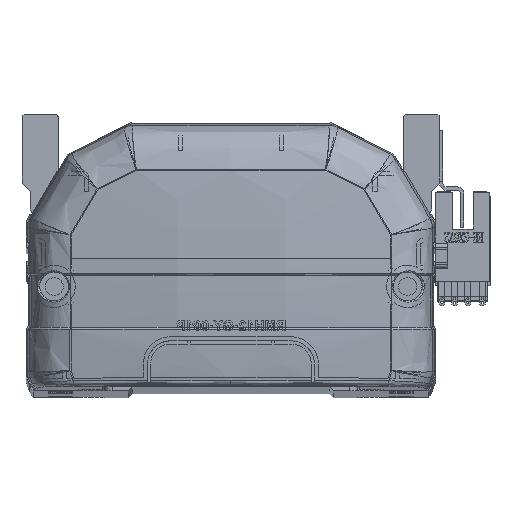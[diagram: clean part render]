
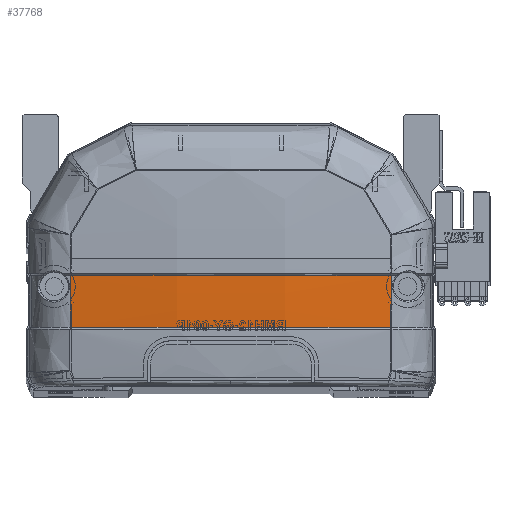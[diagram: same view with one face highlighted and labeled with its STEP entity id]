
A CAD part, top view. The second image highlights one B-rep face of the part: STEP entity #37768.
In plain terms, the highlighted free-form (B-spline) face has degree [3, 3] with [4, 4] control points.
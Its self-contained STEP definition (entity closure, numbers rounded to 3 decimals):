
#144 = CARTESIAN_POINT ( 'NONE',  ( -13.598, 28.769, -10.535 ) ) ;
#596 = CARTESIAN_POINT ( 'NONE',  ( -39.973, 20.118, -6.142 ) ) ;
#970 = CARTESIAN_POINT ( 'NONE',  ( 13.375, 28.707, -9.468 ) ) ;
#1488 = CARTESIAN_POINT ( 'NONE',  ( -26.721, 15.83, -7.624 ) ) ;
#3504 = CARTESIAN_POINT ( 'NONE',  ( -40.461, 24.47, -6.231 ) ) ;
#3986 = CARTESIAN_POINT ( 'NONE',  ( 13.598, 19.918, -10.302 ) ) ;
#4266 = CARTESIAN_POINT ( 'NONE',  ( -39.963, 28.706, -6.372 ) ) ;
#4795 = CARTESIAN_POINT ( 'NONE',  ( 26.749, 28.706, -8.432 ) ) ;
#5479 = B_SPLINE_CURVE_WITH_KNOTS ( 'NONE', 3,
 ( #35515, #12750, #39690, #32135, #36011, #36337, #1488, #36842, #48242, #13566 ),
 .UNSPECIFIED., .F., .F.,
 ( 4, 2, 2, 2, 4 ),
 ( 0., 0.04, 0.06, 0.07, 0.08 ),
 .UNSPECIFIED. ) ;
#7159 = CARTESIAN_POINT ( 'NONE',  ( 13.598, 24.342, -10.47 ) ) ;
#7827 = CARTESIAN_POINT ( 'NONE',  ( 40.461, 28.832, -6.296 ) ) ;
#11113 = EDGE_CURVE ( 'NONE', #49138, #20918, #5479, .T. ) ;
#11721 = CARTESIAN_POINT ( 'NONE',  ( 40.461, 15.757, -5.8 ) ) ;
#12214 = CARTESIAN_POINT ( 'NONE',  ( -40.461, 28.832, -6.296 ) ) ;
#12750 = CARTESIAN_POINT ( 'NONE',  ( 26.761, 15.83, -7.945 ) ) ;
#13566 = CARTESIAN_POINT ( 'NONE',  ( -39.985, 15.83, -5.879 ) ) ;
#13815 = EDGE_CURVE ( 'NONE', #49138, #35984, #41366, .T. ) ;
#14466 = CARTESIAN_POINT ( 'NONE',  ( 39.985, 15.83, -5.879 ) ) ;
#15094 = CARTESIAN_POINT ( 'NONE',  ( 40.461, 24.47, -6.231 ) ) ;
#16771 = CARTESIAN_POINT ( 'NONE',  ( -39.985, 15.83, -5.879 ) ) ;
#16894 = EDGE_CURVE ( 'NONE', #38271, #20918, #29205, .T. ) ;
#18579 = EDGE_CURVE ( 'NONE', #38271, #35984, #45343, .T. ) ;
#18809 = CARTESIAN_POINT ( 'NONE',  ( -13.598, 24.342, -10.47 ) ) ;
#19305 = CARTESIAN_POINT ( 'NONE',  ( 13.598, 28.769, -10.535 ) ) ;
#20918 = VERTEX_POINT ( 'NONE', #16771 ) ;
#21018 = ORIENTED_EDGE ( 'NONE', *, *, #13815, .T. ) ;
#22451 = ORIENTED_EDGE ( 'NONE', *, *, #18579, .F. ) ;
#22526 = CARTESIAN_POINT ( 'NONE',  ( 39.963, 28.706, -6.372 ) ) ;
#22666 = CARTESIAN_POINT ( 'NONE',  ( -40.461, 15.757, -5.8 ) ) ;
#22700 = CARTESIAN_POINT ( 'NONE',  ( 39.973, 20.12, -6.142 ) ) ;
#23112 = CARTESIAN_POINT ( 'NONE',  ( -39.966, 24.412, -6.306 ) ) ;
#23150 = CARTESIAN_POINT ( 'NONE',  ( -13.598, 19.918, -10.302 ) ) ;
#24001 = CARTESIAN_POINT ( 'NONE',  ( -39.963, 28.706, -6.372 ) ) ;
#24063 = CARTESIAN_POINT ( 'NONE',  ( 39.985, 15.83, -5.879 ) ) ;
#24149 = CARTESIAN_POINT ( 'NONE',  ( -26.748, 28.706, -8.432 ) ) ;
#27081 = CARTESIAN_POINT ( 'NONE',  ( 13.598, 15.499, -10.032 ) ) ;
#27455 = ORIENTED_EDGE ( 'NONE', *, *, #11113, .F. ) ;
#29205 = B_SPLINE_CURVE_WITH_KNOTS ( 'NONE', 3,
 ( #4266, #23112, #596, #46687 ),
 .UNSPECIFIED., .F., .F.,
 ( 4, 4 ),
 ( 0., 1. ),
 .UNSPECIFIED. ) ;
#30608 = ORIENTED_EDGE ( 'NONE', *, *, #16894, .T. ) ;
#31348 = CARTESIAN_POINT ( 'NONE',  ( -39.963, 28.706, -6.372 ) ) ;
#32135 = CARTESIAN_POINT ( 'NONE',  ( -6.692, 15.83, -8.984 ) ) ;
#34319 = CARTESIAN_POINT ( 'NONE',  ( -13.598, 15.499, -10.032 ) ) ;
#35168 = CARTESIAN_POINT ( 'NONE',  ( -13.373, 28.707, -9.468 ) ) ;
#35515 = CARTESIAN_POINT ( 'NONE',  ( 39.985, 15.83, -5.879 ) ) ;
#35984 = VERTEX_POINT ( 'NONE', #41670 ) ;
#36011 = CARTESIAN_POINT ( 'NONE',  ( -13.384, 15.83, -8.724 ) ) ;
#36337 = CARTESIAN_POINT ( 'NONE',  ( -23.389, 15.83, -7.947 ) ) ;
#36842 = CARTESIAN_POINT ( 'NONE',  ( -33.365, 15.83, -6.848 ) ) ;
#37768 = ADVANCED_FACE ( 'NONE', ( #43684 ), #39090, .F. ) ;
#38212 = CARTESIAN_POINT ( 'NONE',  ( 39.966, 24.413, -6.306 ) ) ;
#38271 = VERTEX_POINT ( 'NONE', #31348 ) ;
#39090 =( BOUNDED_SURFACE ( )  B_SPLINE_SURFACE ( 3, 3, ( 
 ( #11721, #41881, #15094, #7827 ),
 ( #27081, #3986, #7159, #19305 ),
 ( #34319, #23150, #18809, #144 ),
 ( #22666, #49627, #3504, #12214 ) ),
 .UNSPECIFIED., .F., .F., .F. ) 
 B_SPLINE_SURFACE_WITH_KNOTS ( ( 4, 4 ),
 ( 4, 4 ),
 ( 0., 1. ),
 ( 0., 1. ),
 .UNSPECIFIED. ) 
 GEOMETRIC_REPRESENTATION_ITEM ( )  RATIONAL_B_SPLINE_SURFACE ( (
 ( 1., 1., 1., 1.),
 ( 0.992, 0.992, 0.992, 0.992),
 ( 0.992, 0.992, 0.992, 0.992),
 ( 1., 1., 1., 1.) ) ) 
 REPRESENTATION_ITEM ( '' )  SURFACE ( )  );
#39512 = CARTESIAN_POINT ( 'NONE',  ( 39.963, 28.706, -6.372 ) ) ;
#39690 = CARTESIAN_POINT ( 'NONE',  ( 13.38, 15.83, -8.984 ) ) ;
#41366 = B_SPLINE_CURVE_WITH_KNOTS ( 'NONE', 3,
 ( #14466, #22700, #38212, #22526 ),
 .UNSPECIFIED., .F., .F.,
 ( 4, 4 ),
 ( 0., 1. ),
 .UNSPECIFIED. ) ;
#41670 = CARTESIAN_POINT ( 'NONE',  ( 39.963, 28.706, -6.372 ) ) ;
#41881 = CARTESIAN_POINT ( 'NONE',  ( 40.461, 20.111, -6.066 ) ) ;
#43684 = FACE_OUTER_BOUND ( 'NONE', #48345, .T. ) ;
#45343 = B_SPLINE_CURVE_WITH_KNOTS ( 'NONE', 3,
 ( #24001, #24149, #35168, #970, #4795, #39512 ),
 .UNSPECIFIED., .F., .F.,
 ( 4, 2, 4 ),
 ( 0., 0.5, 1. ),
 .UNSPECIFIED. ) ;
#46687 = CARTESIAN_POINT ( 'NONE',  ( -39.985, 15.83, -5.879 ) ) ;
#48242 = CARTESIAN_POINT ( 'NONE',  ( -36.679, 15.83, -6.395 ) ) ;
#48345 = EDGE_LOOP ( 'NONE', ( #21018, #22451, #30608, #27455 ) ) ;
#49138 = VERTEX_POINT ( 'NONE', #24063 ) ;
#49627 = CARTESIAN_POINT ( 'NONE',  ( -40.461, 20.111, -6.066 ) ) ;
